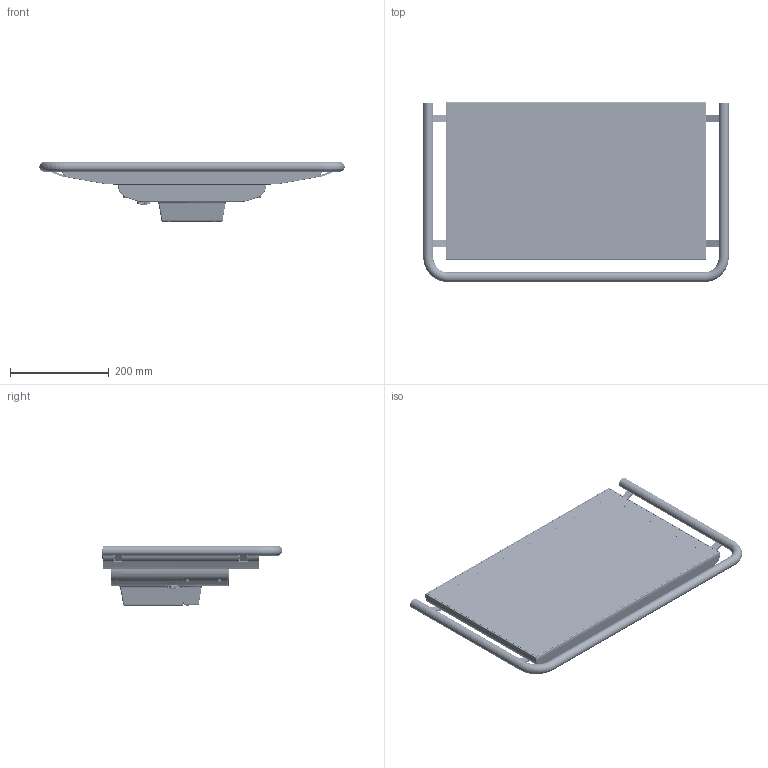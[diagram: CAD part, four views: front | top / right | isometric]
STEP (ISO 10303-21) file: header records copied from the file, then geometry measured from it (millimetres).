
FILE_DESCRIPTION (( 'STEP AP214' ), '1' );
FILE_NAME ('vk3500_215_vesa_maniglione_usbpost.STEP', '2022-03-08T15:57:08', ( '' ), ( '' ), 'SwSTEP 2.0', 'SolidWorks 2021', '' );
FILE_SCHEMA (( 'AUTOMOTIVE_DESIGN' ));
Length unit declared in the file: millimetre
Products named in the file (15): 60290002; 66811015; 50342037; 56600624; 55600028; vk3500_215_vesa_maniglione_usbpost; 56600541; 56636883; 56236060; 69111021; kit_posteriore_vesa_usb3; 57836056_Default<A macchina>; 56202009; ________________________________________^00_d18201915; 55688012
Assembly tree (29 placements, depth 4):
  vk3500_215_vesa_maniglione_usbpost
    56600624
      56600541
        56636883
        50342037
      55600028
        55688012
    57836056_Default<A macchina>
    56202009  x4
    66811015  x8
    69111021  x4
    60290002  x4
    56236060
    kit_posteriore_vesa_usb3
  ________________________________________^00_d18201915
Bounding box: 619.5 x 365.58 x 122.1 mm (x, y, z)
Volume: 1589265.4 mm3; surface area: 1132086.1 mm2
Topology: 33 solids, 89 shells, 4287 faces, 10483 edges, 6437 vertices
Faces by surface type: cylinder 1488, plane 1212, cone 806, bspline 514, torus 202, sphere 65
Entity records: 182579 total; most frequent: CARTESIAN_POINT 65763, ORIENTED_EDGE 18162, DIRECTION 17817, EDGE_CURVE 9115, AXIS2_PLACEMENT_3D 6966, VERTEX_POINT 5627, EDGE_LOOP 4188, LINE 3885
